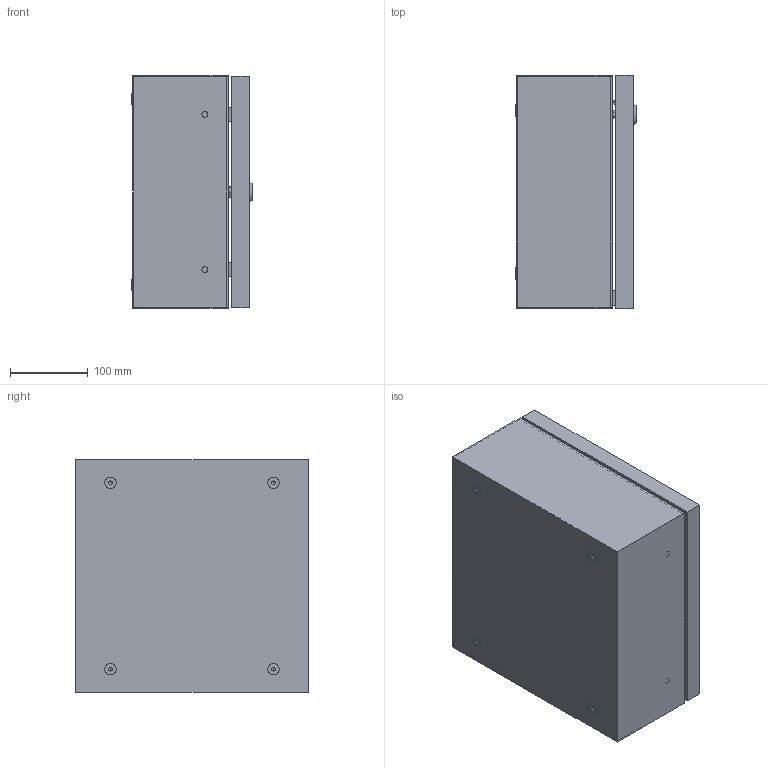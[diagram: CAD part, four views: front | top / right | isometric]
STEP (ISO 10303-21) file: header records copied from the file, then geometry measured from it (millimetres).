
FILE_DESCRIPTION(/* description */ ('Unknown'),/* implementation_level */ '2;1');
FILE_NAME(/* name */ 'CCA03003015',/* time_stamp */ '2024-07-25T11:13:35+02:00',/* author */ ('Unknown'),/* organization */ ('Unknown'),/* preprocessor_version */ 'ST-DEVELOPER v19.4',/* originating_system */ 'Solid Edge',/* authorisation */ 'Unknown');
FILE_SCHEMA (('AUTOMOTIVE_DESIGN {1 0 10303 214 3 1 1}'));
Length unit declared in the file: millimetre
Products named in the file (16): CCA03003015; C000X000.10_oa_0; C000X000.11_oa_1; C0000000.29; C0000000.02; AE00989.09; AE00198.02; AE00417.01; C000X003.60_oa_2; C0000002.93; C0000000.04; C0000000.05; AE00316.01; AE00601.01; AE00891.02; C0000000.01
Assembly tree (33 placements, depth 4):
  CCA03003015
    C000X000.10_oa_0
      C000X000.11_oa_1
        C0000000.29
      C0000000.02  x2
      AE00989.09
      AE00198.02
      AE00417.01  x2
    AE00198.02  x2
    C000X003.60_oa_2
      C0000002.93
      C0000000.04  x4
      C0000000.05  x4
      AE00316.01  x2
      AE00601.01  x2
      AE00891.02  x2
      C0000000.01  x2
      AE00417.01  x4
Bounding box: 155 x 300 x 300 mm (x, y, z)
Volume: 802392.1 mm3; surface area: 779309.2 mm2
Topology: 31 solids, 31 shells, 490 faces, 1160 edges, 758 vertices
Faces by surface type: plane 323, cylinder 111, cone 33, torus 23
Full cylindrical faces by diameter (mm): 4 x1, 4.917 x5, 4.918 x2, 5.4 x2, 6 x13, 6.4 x2, 7.5 x6, 8 x4, 8.376 x8, 10 x5, 10.25 x4, 10.5 x3, 11 x2, 13.6 x1, 14 x2, 15 x4, 16 x2, 16.3 x1, 19.5 x1, 28 x1
Entity records: 11084 total; most frequent: CARTESIAN_POINT 1699, DIRECTION 1620, ORIENTED_EDGE 1492, EDGE_CURVE 746, AXIS2_PLACEMENT_3D 542, LINE 536, VECTOR 536, VERTEX_POINT 512
